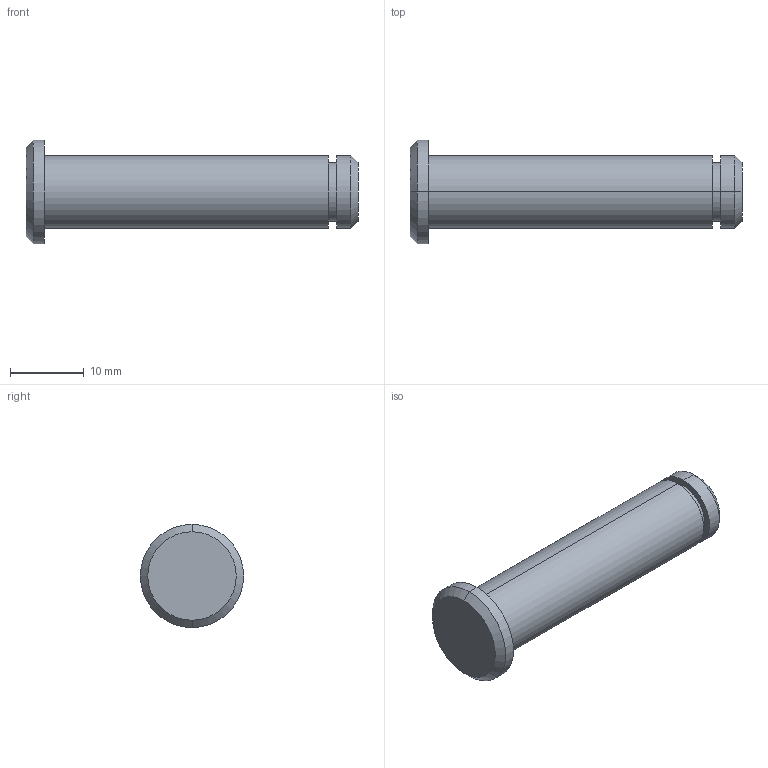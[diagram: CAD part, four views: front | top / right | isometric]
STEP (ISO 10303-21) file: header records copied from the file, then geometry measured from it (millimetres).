
FILE_DESCRIPTION (( 'STEP AP214' ), '1' );
FILE_NAME ('10136V000_Ben-Bolzen10x45x39_Index_1.STEP', '2014-04-25T12:18:54', ( 'Admin' ), ( '' ), 'SwSTEP 2.0', 'SolidWorks 2013', '' );
FILE_SCHEMA (( 'AUTOMOTIVE_DESIGN' ));
Length unit declared in the file: millimetre
Products named in the file (1): 10136V000_Ben-Bolzen10x45x39_Index_1
Bounding box: 45 x 14 x 14 mm (x, y, z)
Volume: 3591.5 mm3; surface area: 1739.9 mm2
Topology: 1 solids, 1 shells, 17 faces, 32 edges, 20 vertices
Faces by surface type: cylinder 8, plane 5, cone 4
Entity records: 468 total; most frequent: DIRECTION 88, CARTESIAN_POINT 70, ORIENTED_EDGE 64, AXIS2_PLACEMENT_3D 38, EDGE_CURVE 32, VERTEX_POINT 20, EDGE_LOOP 20, CIRCLE 20
